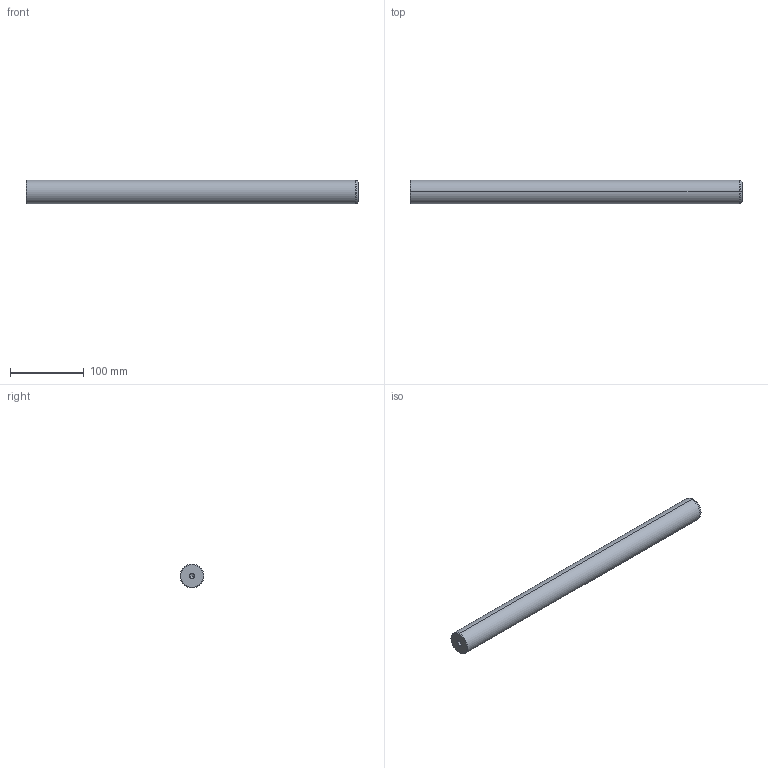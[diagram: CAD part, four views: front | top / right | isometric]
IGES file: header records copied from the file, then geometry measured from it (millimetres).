
Start section: START RECORD GO HERE.
Global section: file name: 720-32x450.igs; native system: DASSAULT SYSTEMES CATIA V5 R20 - www.3ds.com; preprocessor: CATIA Version 5 Release 20 ; author: Utente; organization: NB04-ASUS; date: 20210101.131014; units: millimetre
Bounding box: 450 x 32 x 32 mm (x, y, z)
Surface area: 47631.7 mm2 (no closed solid volume)
Topology: 0 solids, 0 shells, 22 faces, 120 edges, 116 vertices
Faces by surface type: revolution 20, plane 2
